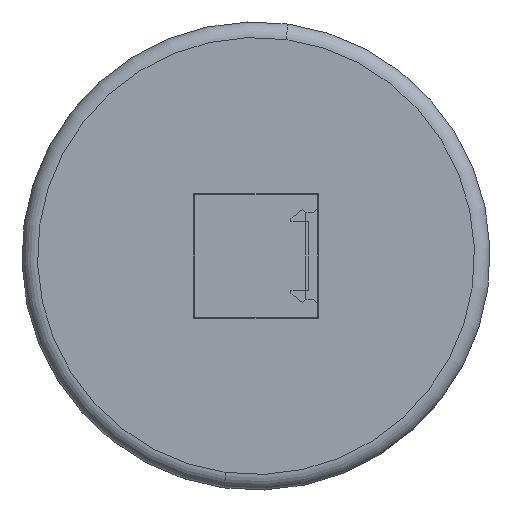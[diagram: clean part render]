
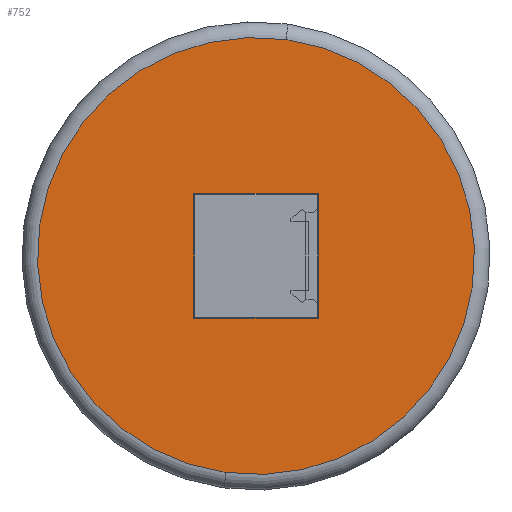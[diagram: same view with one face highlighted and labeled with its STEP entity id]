
A CAD part, left-side view. The second image highlights one B-rep face of the part: STEP entity #752.
In plain terms, the highlighted planar face has unit normal (-1, 0, 0).
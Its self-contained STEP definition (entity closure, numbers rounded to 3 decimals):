
#14 = VERTEX_POINT ( 'NONE', #2178 ) ;
#37 = DIRECTION ( 'NONE',  ( -1., 0., 0. ) ) ;
#79 = DIRECTION ( 'NONE',  ( -1., 0., 0. ) ) ;
#109 = ORIENTED_EDGE ( 'NONE', *, *, #458, .T. ) ;
#368 = CIRCLE ( 'NONE', #2331, 35. ) ;
#458 = EDGE_CURVE ( 'NONE', #531, #14, #710, .T. ) ;
#531 = VERTEX_POINT ( 'NONE', #1049 ) ;
#710 = CIRCLE ( 'NONE', #1280, 35. ) ;
#743 = ORIENTED_EDGE ( 'NONE', *, *, #2233, .T. ) ;
#752 = ADVANCED_FACE ( 'NONE', ( #803 ), #1163, .F. ) ;
#801 = DIRECTION ( 'NONE',  ( 0., 0.137, -0.991 ) ) ;
#803 = FACE_OUTER_BOUND ( 'NONE', #836, .T. ) ;
#836 = EDGE_LOOP ( 'NONE', ( #743, #109 ) ) ;
#987 = CARTESIAN_POINT ( 'NONE',  ( 873., 0., 0. ) ) ;
#1049 = CARTESIAN_POINT ( 'NONE',  ( 873., -4.803, 34.669 ) ) ;
#1162 = CARTESIAN_POINT ( 'NONE',  ( 873., 0., 0. ) ) ;
#1163 = PLANE ( 'NONE',  #1607 ) ;
#1249 = CARTESIAN_POINT ( 'NONE',  ( 873., 0., 0. ) ) ;
#1280 = AXIS2_PLACEMENT_3D ( 'NONE', #1249, #37, #1801 ) ;
#1361 = DIRECTION ( 'NONE',  ( 0., 0.137, -0.991 ) ) ;
#1362 = DIRECTION ( 'NONE',  ( 1., 0., 0. ) ) ;
#1607 = AXIS2_PLACEMENT_3D ( 'NONE', #987, #1362, #801 ) ;
#1801 = DIRECTION ( 'NONE',  ( 0., 0.137, -0.991 ) ) ;
#2178 = CARTESIAN_POINT ( 'NONE',  ( 873., 4.803, -34.669 ) ) ;
#2233 = EDGE_CURVE ( 'NONE', #14, #531, #368, .T. ) ;
#2331 = AXIS2_PLACEMENT_3D ( 'NONE', #1162, #79, #1361 ) ;
